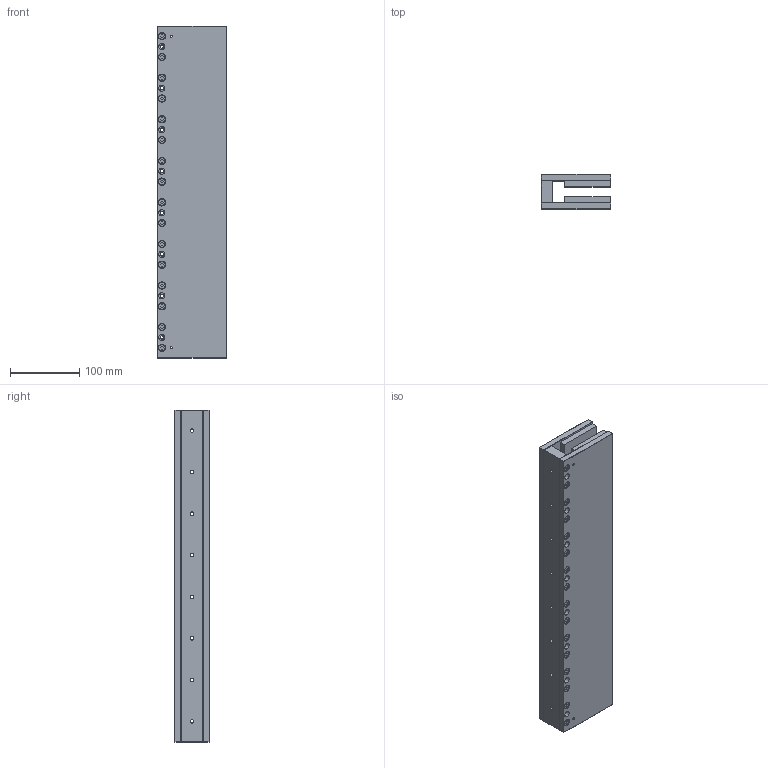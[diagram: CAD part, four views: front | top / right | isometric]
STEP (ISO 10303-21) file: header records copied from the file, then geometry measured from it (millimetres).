
FILE_DESCRIPTION (( 'STEP AP203' ), '1' );
FILE_NAME ('DX65F-TL480.step', '2021-01-04T11:02:34', ( '' ), ( '' ), 'SwSTEP 2.0', 'SolidWorks 2020', '' );
FILE_SCHEMA (( 'CONFIG_CONTROL_DESIGN' ));
Length unit declared in the file: millimetre
Products named in the file (1): DX65F-TL480
Bounding box: 100 x 50 x 479.5 mm (x, y, z)
Volume: 1645853.8 mm3; surface area: 277473.8 mm2
Topology: 1 solids, 49 shells, 942 faces, 2014 edges, 1268 vertices
Faces by surface type: plane 486, cylinder 392, torus 64
Entity records: 25635 total; most frequent: DIRECTION 4716, CARTESIAN_POINT 4321, ORIENTED_EDGE 4028, EDGE_CURVE 2014, AXIS2_PLACEMENT_3D 1791, VERTEX_POINT 1268, EDGE_LOOP 1160, LINE 1134
